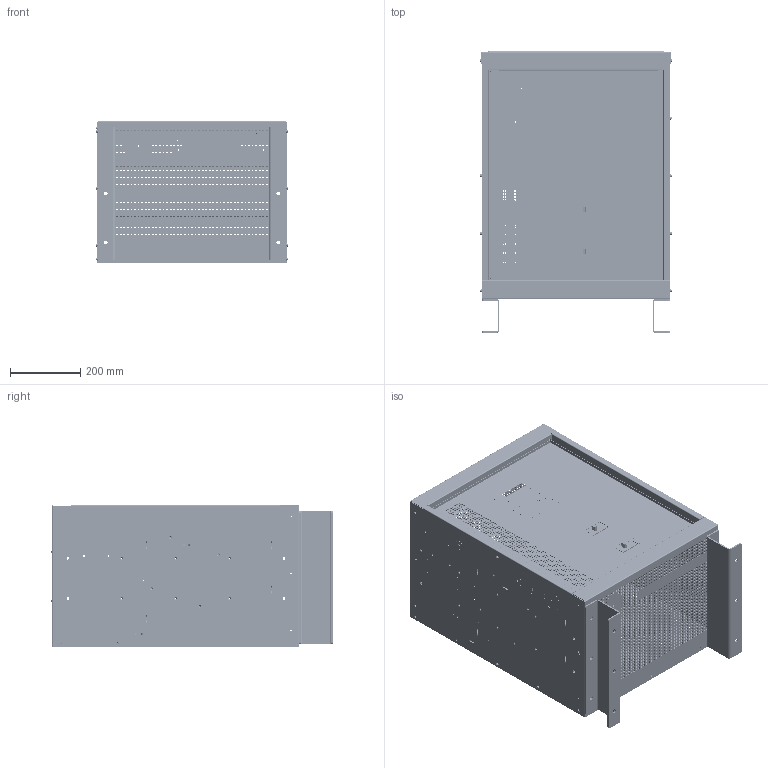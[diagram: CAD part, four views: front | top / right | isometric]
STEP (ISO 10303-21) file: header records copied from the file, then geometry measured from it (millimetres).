
FILE_DESCRIPTION (( 'STEP AP214' ), '1' );
FILE_NAME ('3DCAD-Q2-FLOOR-MOUNT-STEP_REVA.STEP', '2014-04-03T20:12:19', ( 'barrye' ), ( '' ), 'SwSTEP 2.0', 'SolidWorks 2012', '' );
FILE_SCHEMA (( 'AUTOMOTIVE_DESIGN' ));
Length unit declared in the file: inch
Products named in the file (14): 932029_93882A193; 79-22-02; 83-05-02; 83-05-02_reinforce-channel-M2; 83-05-02_panel; 83-02-02; q2_master_door_3D CAD BLANK DOOR; 808560; 83-04-01; q2_master_breaker_panel_BREAKERS ONLY; breaker_squared_fal_2_pole_assy; breaker_squared_fal_2_pole_part; 83-01-02; 3DCAD-Q2-FLOOR-MOUNT-STEP_REVA
Assembly tree (36 placements, depth 4):
  3DCAD-Q2-FLOOR-MOUNT-STEP_REVA
    83-01-02
    q2_master_breaker_panel_BREAKERS ONLY
      breaker_squared_fal_2_pole_assy  x2
        breaker_squared_fal_2_pole_part
    q2_master_door_3D CAD BLANK DOOR
      83-04-01
      808560
    83-02-02
    83-05-02
      83-05-02_panel
      83-05-02_reinforce-channel-M2
    79-22-02  x2
    932029_93882A193  x22
Bounding box: 548.68 x 802.35 x 405.63 mm (x, y, z)
Volume: 5951540 mm3; surface area: 4370000.8 mm2
Topology: 60 solids, 60 shells, 16598 faces, 48404 edges, 32204 vertices
Faces by surface type: plane 14426, bspline 951, cylinder 923, cone 202, torus 96
Full cylindrical faces by diameter (mm): 0.127 x4, 1.016 x2, 2.438 x1, 2.896 x5, 2.9 x1, 2.997 x11, 3.175 x2, 3.75 x4, 3.922 x4, 3.937 x4, 3.988 x11, 4.14 x6, 4.3 x36, 4.305 x2, 4.318 x1, 4.496 x27, 4.775 x7, 4.801 x3, 4.826 x2, 5.08 x4, 5.156 x5, 5.385 x6, 5.41 x17, 5.537 x8, 5.634 x1, 5.944 x11, 6.02 x4, 6.502 x5, 6.731 x2, 7.112 x1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
Entity records: 552318 total; most frequent: CARTESIAN_POINT 118536, ORIENTED_EDGE 89038, DIRECTION 75033, EDGE_CURVE 44519, LINE 42025, VECTOR 42025, VERTEX_POINT 29830, EDGE_LOOP 22729
